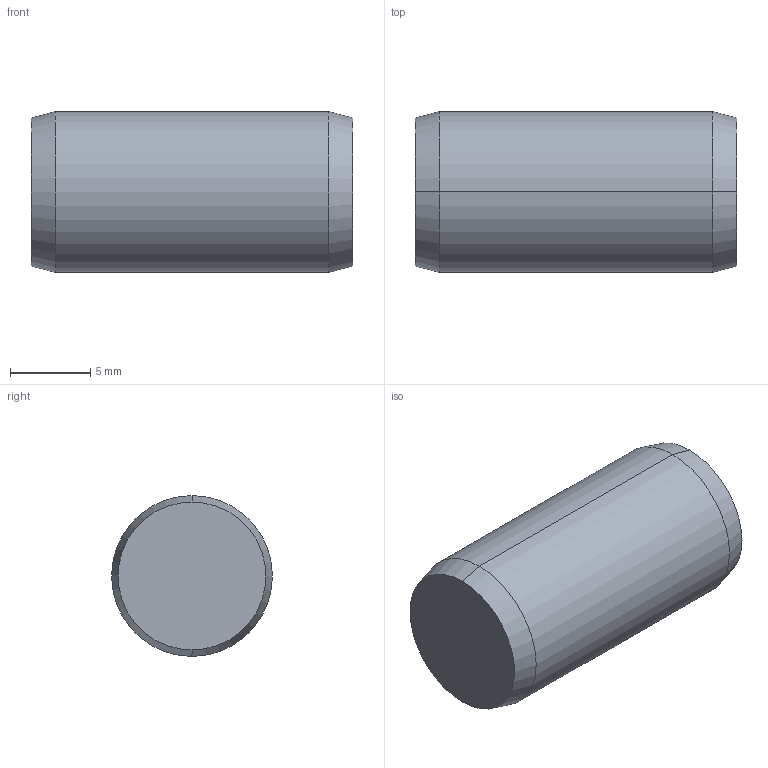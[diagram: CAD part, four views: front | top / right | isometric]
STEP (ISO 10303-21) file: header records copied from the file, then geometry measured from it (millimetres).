
FILE_DESCRIPTION (( 'STEP AP203' ), '1' );
FILE_NAME ('P1206.100-020.step', '2017-06-14T08:30:57', ( 'User' ), ( '' ), 'SwSTEP 2.0', 'SolidWorks 2009', '' );
FILE_SCHEMA (( 'CONFIG_CONTROL_DESIGN' ));
Length unit declared in the file: millimetre
Products named in the file (1): P1206.100-020
Bounding box: 20 x 10 x 10 mm (x, y, z)
Volume: 1552.4 mm3; surface area: 760.6 mm2
Topology: 1 solids, 1 shells, 8 faces, 14 edges, 8 vertices
Faces by surface type: cone 4, cylinder 2, plane 2
Entity records: 271 total; most frequent: DIRECTION 40, CARTESIAN_POINT 31, ORIENTED_EDGE 28, AXIS2_PLACEMENT_3D 17, EDGE_CURVE 14, CIRCLE 8, FACE_OUTER_BOUND 8, ADVANCED_FACE 8
